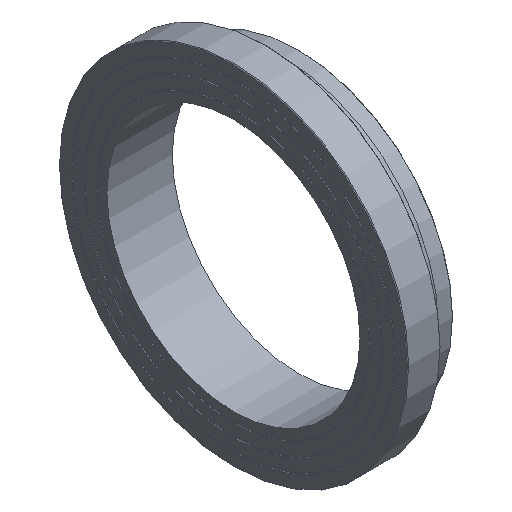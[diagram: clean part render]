
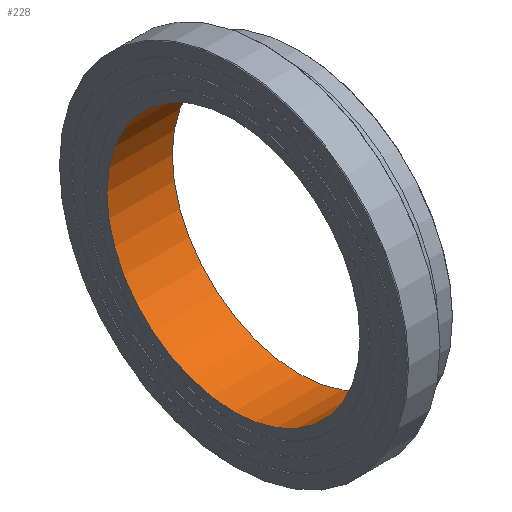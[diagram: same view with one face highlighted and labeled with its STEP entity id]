
A CAD part, isometric view. The second image highlights one B-rep face of the part: STEP entity #228.
In plain terms, the highlighted cylindrical face has radius 290.4 mm (diameter 580.8 mm), a full revolution.
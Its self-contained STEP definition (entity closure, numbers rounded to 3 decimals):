
#33=CYLINDRICAL_SURFACE('',#274,290.4);
#50=ORIENTED_EDGE('',*,*,#79,.F.);
#51=ORIENTED_EDGE('',*,*,#76,.T.);
#76=EDGE_CURVE('',#96,#96,#116,.T.);
#79=EDGE_CURVE('',#99,#99,#119,.T.);
#96=VERTEX_POINT('',#383);
#99=VERTEX_POINT('',#390);
#116=CIRCLE('',#257,290.4);
#119=CIRCLE('',#261,290.4);
#150=EDGE_LOOP('',(#50));
#151=EDGE_LOOP('',(#51));
#190=FACE_BOUND('',#150,.T.);
#191=FACE_BOUND('',#151,.T.);
#228=ADVANCED_FACE('',(#190,#191),#33,.F.);
#257=AXIS2_PLACEMENT_3D('',#382,#303,#304);
#261=AXIS2_PLACEMENT_3D('',#389,#311,#312);
#274=AXIS2_PLACEMENT_3D('',#410,#337,#338);
#303=DIRECTION('',(-1.,0.,0.));
#304=DIRECTION('',(0.,0.,1.));
#311=DIRECTION('',(-1.,0.,0.));
#312=DIRECTION('',(0.,0.,1.));
#337=DIRECTION('',(-1.,0.,0.));
#338=DIRECTION('',(0.,0.,1.));
#382=CARTESIAN_POINT('',(0.,0.,0.));
#383=CARTESIAN_POINT('',(0.,0.,290.4));
#389=CARTESIAN_POINT('',(150.,0.,0.));
#390=CARTESIAN_POINT('',(150.,0.,290.4));
#410=CARTESIAN_POINT('',(60.,0.,0.));
